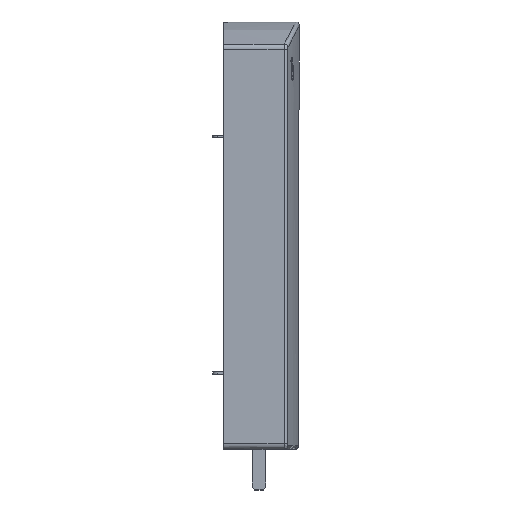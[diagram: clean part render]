
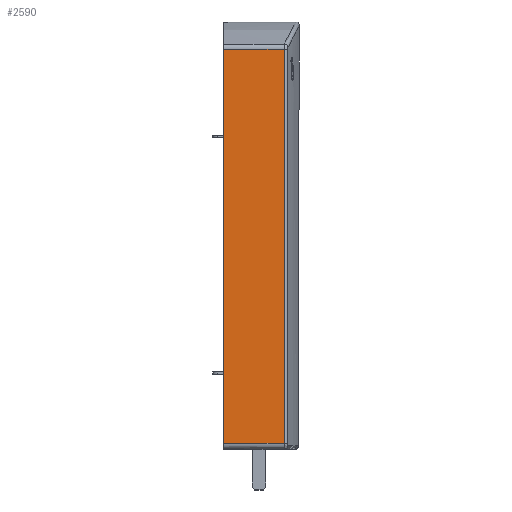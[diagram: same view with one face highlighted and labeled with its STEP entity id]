
A CAD part, top view. The second image highlights one B-rep face of the part: STEP entity #2590.
In plain terms, the highlighted planar face has unit normal (0, 0, 1).
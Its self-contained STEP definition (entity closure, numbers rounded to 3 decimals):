
#237 = EDGE_LOOP ( 'NONE', ( #3451, #3452, #3453, #3454 ) ) ;
#2590 = ADVANCED_FACE ( 'NONE', ( #8549 ), #8557, .T. ) ;
#2674 = EDGE_CURVE ( 'NONE', #3179, #3087, #9184, .T. ) ;
#2675 = EDGE_CURVE ( 'NONE', #3179, #3161, #9195, .T. ) ;
#2676 = EDGE_CURVE ( 'NONE', #3161, #3088, #9179, .T. ) ;
#3087 = VERTEX_POINT ( 'NONE', #10435 ) ;
#3088 = VERTEX_POINT ( 'NONE', #10436 ) ;
#3161 = VERTEX_POINT ( 'NONE', #10509 ) ;
#3179 = VERTEX_POINT ( 'NONE', #10526 ) ;
#3451 = ORIENTED_EDGE ( 'NONE', *, *, #2674, .F. ) ;
#3452 = ORIENTED_EDGE ( 'NONE', *, *, #2675, .T. ) ;
#3453 = ORIENTED_EDGE ( 'NONE', *, *, #2676, .T. ) ;
#3454 = ORIENTED_EDGE ( 'NONE', *, *, #4110, .F. ) ;
#4110 = EDGE_CURVE ( 'NONE', #3087, #3088, #12191, .T. ) ;
#8548 = CARTESIAN_POINT ( 'NONE',  ( 41.001, 207.096, 22.754 ) ) ;
#8549 = FACE_OUTER_BOUND ( 'NONE', #237, .T. ) ;
#8557 = PLANE ( 'NONE',  #8836 ) ;
#8560 = DIRECTION ( 'NONE',  ( 0., 0., 1. ) ) ;
#8561 = DIRECTION ( 'NONE',  ( 1., 0., 0. ) ) ;
#8836 = AXIS2_PLACEMENT_3D ( 'NONE', #8548, #8560, #8561 ) ;
#8872 = VECTOR ( 'NONE', #9194, 1000. ) ;
#8873 = VECTOR ( 'NONE', #9198, 1000. ) ;
#8874 = VECTOR ( 'NONE', #9200, 1000. ) ;
#9179 = LINE ( 'NONE', #9199, #8874 ) ;
#9184 = LINE ( 'NONE', #9193, #8872 ) ;
#9193 = CARTESIAN_POINT ( 'NONE',  ( 41.001, -6.062, 22.754 ) ) ;
#9194 = DIRECTION ( 'NONE',  ( -1., 0., 0. ) ) ;
#9195 = LINE ( 'NONE', #9197, #8873 ) ;
#9197 = CARTESIAN_POINT ( 'NONE',  ( 32.709, 207.096, 22.754 ) ) ;
#9198 = DIRECTION ( 'NONE',  ( 0., 1., 0. ) ) ;
#9199 = CARTESIAN_POINT ( 'NONE',  ( 41.001, 207.096, 22.754 ) ) ;
#9200 = DIRECTION ( 'NONE',  ( -1., 0., 0. ) ) ;
#10435 = CARTESIAN_POINT ( 'NONE',  ( 0., -6.062, 22.754 ) ) ;
#10436 = CARTESIAN_POINT ( 'NONE',  ( 0., 207.096, 22.754 ) ) ;
#10509 = CARTESIAN_POINT ( 'NONE',  ( 32.709, 207.096, 22.754 ) ) ;
#10526 = CARTESIAN_POINT ( 'NONE',  ( 32.709, -6.062, 22.754 ) ) ;
#12191 = LINE ( 'NONE', #12192, #12966 ) ;
#12192 = CARTESIAN_POINT ( 'NONE',  ( 0., 207.096, 22.754 ) ) ;
#12193 = DIRECTION ( 'NONE',  ( 0., 1., 0. ) ) ;
#12966 = VECTOR ( 'NONE', #12193, 1000. ) ;
